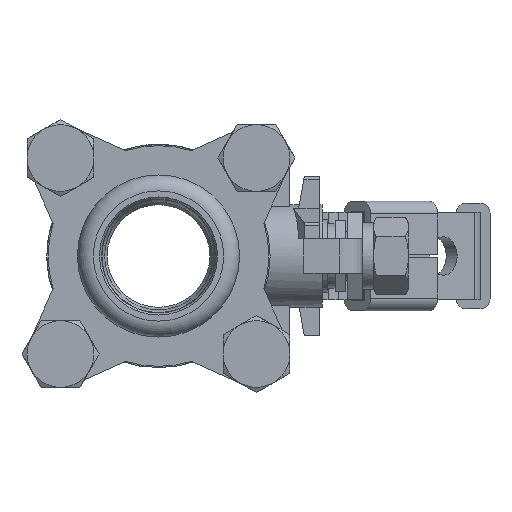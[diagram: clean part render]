
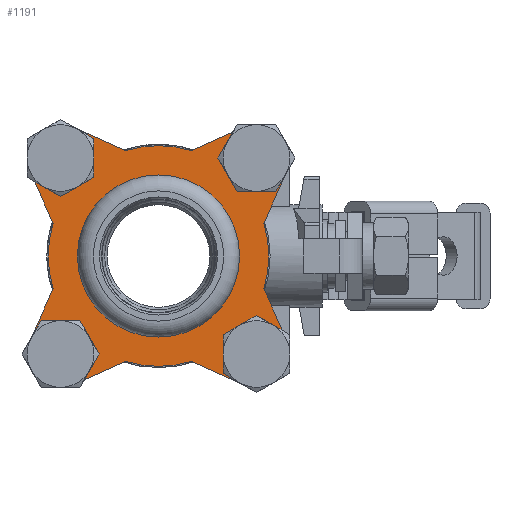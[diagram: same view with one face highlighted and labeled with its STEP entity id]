
A CAD part, front view. The second image highlights one B-rep face of the part: STEP entity #1191.
In plain terms, the highlighted planar face has unit normal (0, -1, 0).
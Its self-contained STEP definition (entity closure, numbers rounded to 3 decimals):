
#1191=ADVANCED_FACE('',(#2324,#2325,#2326,#2327,#2328,#2329),#2330,.F.);
#2324=FACE_BOUND('',#3670,.T.);
#2325=FACE_BOUND('',#3671,.T.);
#2326=FACE_BOUND('',#3672,.T.);
#2327=FACE_BOUND('',#3673,.T.);
#2328=FACE_OUTER_BOUND('',#3674,.T.);
#2329=FACE_BOUND('',#3675,.T.);
#2330=PLANE('',#3676);
#3670=EDGE_LOOP('',(#5640));
#3671=EDGE_LOOP('',(#5641));
#3672=EDGE_LOOP('',(#5642));
#3673=EDGE_LOOP('',(#5643));
#3674=EDGE_LOOP('',(#5644,#5645,#5646,#5647,#5648,#5649,#5650,#5651,#5652,#5653,#5654,#5655,#5656,#5657,#5658,#5659));
#3675=EDGE_LOOP('',(#5660));
#3676=AXIS2_PLACEMENT_3D('',#5661,#5662,#5663);
#5640=ORIENTED_EDGE('',*,*,#8114,.F.);
#5641=ORIENTED_EDGE('',*,*,#8115,.F.);
#5642=ORIENTED_EDGE('',*,*,#8116,.F.);
#5643=ORIENTED_EDGE('',*,*,#8117,.F.);
#5644=ORIENTED_EDGE('',*,*,#8118,.F.);
#5645=ORIENTED_EDGE('',*,*,#8119,.F.);
#5646=ORIENTED_EDGE('',*,*,#8120,.F.);
#5647=ORIENTED_EDGE('',*,*,#8121,.F.);
#5648=ORIENTED_EDGE('',*,*,#8122,.F.);
#5649=ORIENTED_EDGE('',*,*,#8123,.F.);
#5650=ORIENTED_EDGE('',*,*,#8124,.F.);
#5651=ORIENTED_EDGE('',*,*,#8125,.F.);
#5652=ORIENTED_EDGE('',*,*,#8126,.F.);
#5653=ORIENTED_EDGE('',*,*,#8127,.F.);
#5654=ORIENTED_EDGE('',*,*,#8128,.F.);
#5655=ORIENTED_EDGE('',*,*,#8129,.F.);
#5656=ORIENTED_EDGE('',*,*,#8130,.F.);
#5657=ORIENTED_EDGE('',*,*,#8131,.F.);
#5658=ORIENTED_EDGE('',*,*,#8132,.F.);
#5659=ORIENTED_EDGE('',*,*,#8133,.F.);
#5660=ORIENTED_EDGE('',*,*,#8112,.F.);
#5661=CARTESIAN_POINT('',(-12.5,-24.1,0.));
#5662=DIRECTION('',(0.,1.0,0.0));
#5663=DIRECTION('',(0.0,0.0,-1.0));
#8112=EDGE_CURVE('',#9412,#9412,#9413,.T.);
#8114=EDGE_CURVE('',#9415,#9415,#9416,.T.);
#8115=EDGE_CURVE('',#9417,#9417,#9418,.T.);
#8116=EDGE_CURVE('',#9419,#9419,#9420,.T.);
#8117=EDGE_CURVE('',#9421,#9421,#9422,.T.);
#8118=EDGE_CURVE('',#9423,#9424,#9425,.T.);
#8119=EDGE_CURVE('',#9426,#9423,#9427,.T.);
#8120=EDGE_CURVE('',#9428,#9426,#9429,.T.);
#8121=EDGE_CURVE('',#9430,#9428,#9431,.T.);
#8122=EDGE_CURVE('',#9432,#9430,#9433,.T.);
#8123=EDGE_CURVE('',#9434,#9432,#9435,.T.);
#8124=EDGE_CURVE('',#9436,#9434,#9437,.T.);
#8125=EDGE_CURVE('',#9438,#9436,#9439,.T.);
#8126=EDGE_CURVE('',#9440,#9438,#9441,.T.);
#8127=EDGE_CURVE('',#9442,#9440,#9443,.T.);
#8128=EDGE_CURVE('',#9444,#9442,#9445,.T.);
#8129=EDGE_CURVE('',#9446,#9444,#9447,.T.);
#8130=EDGE_CURVE('',#9448,#9446,#9449,.T.);
#8131=EDGE_CURVE('',#9450,#9448,#9451,.T.);
#8132=EDGE_CURVE('',#9452,#9450,#9453,.T.);
#8133=EDGE_CURVE('',#9424,#9452,#9454,.T.);
#9412=VERTEX_POINT('',#11414);
#9413=CIRCLE('',#11415,12.5);
#9415=VERTEX_POINT('',#11417);
#9416=CIRCLE('',#11418,4.15);
#9417=VERTEX_POINT('',#11419);
#9418=CIRCLE('',#11420,4.15);
#9419=VERTEX_POINT('',#11421);
#9420=CIRCLE('',#11422,4.15);
#9421=VERTEX_POINT('',#11423);
#9422=CIRCLE('',#11424,4.15);
#9423=VERTEX_POINT('',#11425);
#9424=VERTEX_POINT('',#11426);
#9425=LINE('',#11427,#11428);
#9426=VERTEX_POINT('',#11429);
#9427=CIRCLE('',#11430,21.5);
#9428=VERTEX_POINT('',#11431);
#9429=LINE('',#11432,#11433);
#9430=VERTEX_POINT('',#11434);
#9431=CIRCLE('',#11435,6.5);
#9432=VERTEX_POINT('',#11436);
#9433=LINE('',#11437,#11438);
#9434=VERTEX_POINT('',#11439);
#9435=CIRCLE('',#11440,21.5);
#9436=VERTEX_POINT('',#11441);
#9437=LINE('',#11442,#11443);
#9438=VERTEX_POINT('',#11444);
#9439=CIRCLE('',#11445,6.5);
#9440=VERTEX_POINT('',#11446);
#9441=LINE('',#11447,#11448);
#9442=VERTEX_POINT('',#11449);
#9443=CIRCLE('',#11450,21.5);
#9444=VERTEX_POINT('',#11451);
#9445=LINE('',#11452,#11453);
#9446=VERTEX_POINT('',#11454);
#9447=CIRCLE('',#11455,6.5);
#9448=VERTEX_POINT('',#11456);
#9449=LINE('',#11457,#11458);
#9450=VERTEX_POINT('',#11459);
#9451=CIRCLE('',#11460,21.5);
#9452=VERTEX_POINT('',#11461);
#9453=LINE('',#11462,#11463);
#9454=CIRCLE('',#11464,6.5);
#11414=CARTESIAN_POINT('',(0.,-24.1,-12.5));
#11415=AXIS2_PLACEMENT_3D('',#13891,#13892,#13893);
#11417=CARTESIAN_POINT('',(19.092,-24.1,14.942));
#11418=AXIS2_PLACEMENT_3D('',#13894,#13895,#13896);
#11419=CARTESIAN_POINT('',(-19.092,-24.1,14.942));
#11420=AXIS2_PLACEMENT_3D('',#13897,#13898,#13899);
#11421=CARTESIAN_POINT('',(19.092,-24.1,-23.242));
#11422=AXIS2_PLACEMENT_3D('',#13900,#13901,#13902);
#11423=CARTESIAN_POINT('',(-19.092,-24.1,-23.242));
#11424=AXIS2_PLACEMENT_3D('',#13903,#13904,#13905);
#11425=CARTESIAN_POINT('',(-6.387,-24.1,-20.529));
#11426=CARTESIAN_POINT('',(-16.438,-24.1,-25.025));
#11427=CARTESIAN_POINT('',(-6.387,-24.1,-20.529));
#11428=VECTOR('',#13906,1.0);
#11429=CARTESIAN_POINT('',(6.387,-24.1,-20.529));
#11430=AXIS2_PLACEMENT_3D('',#13907,#13908,#13909);
#11431=CARTESIAN_POINT('',(16.438,-24.1,-25.025));
#11432=CARTESIAN_POINT('',(16.438,-24.1,-25.025));
#11433=VECTOR('',#13910,1.0);
#11434=CARTESIAN_POINT('',(25.025,-24.1,-16.438));
#11435=AXIS2_PLACEMENT_3D('',#13911,#13912,#13913);
#11436=CARTESIAN_POINT('',(20.529,-24.1,-6.387));
#11437=CARTESIAN_POINT('',(20.529,-24.1,-6.387));
#11438=VECTOR('',#13914,1.0);
#11439=CARTESIAN_POINT('',(20.529,-24.1,6.387));
#11440=AXIS2_PLACEMENT_3D('',#13915,#13916,#13917);
#11441=CARTESIAN_POINT('',(25.025,-24.1,16.438));
#11442=CARTESIAN_POINT('',(25.025,-24.1,16.438));
#11443=VECTOR('',#13918,1.0);
#11444=CARTESIAN_POINT('',(16.438,-24.1,25.025));
#11445=AXIS2_PLACEMENT_3D('',#13919,#13920,#13921);
#11446=CARTESIAN_POINT('',(6.387,-24.1,20.529));
#11447=CARTESIAN_POINT('',(6.387,-24.1,20.529));
#11448=VECTOR('',#13922,1.0);
#11449=CARTESIAN_POINT('',(-6.387,-24.1,20.529));
#11450=AXIS2_PLACEMENT_3D('',#13923,#13924,#13925);
#11451=CARTESIAN_POINT('',(-16.438,-24.1,25.025));
#11452=CARTESIAN_POINT('',(-16.438,-24.1,25.025));
#11453=VECTOR('',#13926,1.0);
#11454=CARTESIAN_POINT('',(-25.025,-24.1,16.438));
#11455=AXIS2_PLACEMENT_3D('',#13927,#13928,#13929);
#11456=CARTESIAN_POINT('',(-20.529,-24.1,6.387));
#11457=CARTESIAN_POINT('',(-20.529,-24.1,6.387));
#11458=VECTOR('',#13930,1.0);
#11459=CARTESIAN_POINT('',(-20.529,-24.1,-6.387));
#11460=AXIS2_PLACEMENT_3D('',#13931,#13932,#13933);
#11461=CARTESIAN_POINT('',(-25.025,-24.1,-16.438));
#11462=CARTESIAN_POINT('',(-25.025,-24.1,-16.438));
#11463=VECTOR('',#13934,1.0);
#11464=AXIS2_PLACEMENT_3D('',#13935,#13936,#13937);
#13891=CARTESIAN_POINT('',(0.,-24.1,0.));
#13892=DIRECTION('',(0.,-1.0,-0.0));
#13893=DIRECTION('',(0.0,0.0,-1.0));
#13894=CARTESIAN_POINT('',(19.092,-24.1,19.092));
#13895=DIRECTION('',(0.,-1.0,0.));
#13896=DIRECTION('',(0.,0.,-1.0));
#13897=CARTESIAN_POINT('',(-19.092,-24.1,19.092));
#13898=DIRECTION('',(0.,-1.0,0.));
#13899=DIRECTION('',(0.,0.,-1.0));
#13900=CARTESIAN_POINT('',(19.092,-24.1,-19.092));
#13901=DIRECTION('',(0.,-1.0,0.));
#13902=DIRECTION('',(0.,0.,-1.0));
#13903=CARTESIAN_POINT('',(-19.092,-24.1,-19.092));
#13904=DIRECTION('',(0.,-1.0,0.));
#13905=DIRECTION('',(0.,0.,-1.0));
#13906=DIRECTION('',(-0.913,0.,-0.408));
#13907=CARTESIAN_POINT('',(0.,-24.1,0.));
#13908=DIRECTION('',(0.,1.0,0.));
#13909=DIRECTION('',(0.,0.,1.0));
#13910=DIRECTION('',(-0.913,0.,0.408));
#13911=CARTESIAN_POINT('',(19.092,-24.1,-19.092));
#13912=DIRECTION('',(0.,1.0,0.));
#13913=DIRECTION('',(0.,0.,1.0));
#13914=DIRECTION('',(0.408,0.,-0.913));
#13915=CARTESIAN_POINT('',(0.,-24.1,0.));
#13916=DIRECTION('',(0.,1.0,0.));
#13917=DIRECTION('',(0.,0.,1.0));
#13918=DIRECTION('',(-0.408,0.,-0.913));
#13919=CARTESIAN_POINT('',(19.092,-24.1,19.092));
#13920=DIRECTION('',(0.,1.0,0.));
#13921=DIRECTION('',(0.,0.,1.0));
#13922=DIRECTION('',(0.913,0.,0.408));
#13923=CARTESIAN_POINT('',(0.,-24.1,0.));
#13924=DIRECTION('',(0.,1.0,0.));
#13925=DIRECTION('',(0.,0.,1.0));
#13926=DIRECTION('',(0.913,0.,-0.408));
#13927=CARTESIAN_POINT('',(-19.092,-24.1,19.092));
#13928=DIRECTION('',(0.,1.0,0.));
#13929=DIRECTION('',(0.,0.,1.0));
#13930=DIRECTION('',(-0.408,0.,0.913));
#13931=CARTESIAN_POINT('',(0.,-24.1,0.));
#13932=DIRECTION('',(0.,1.0,0.));
#13933=DIRECTION('',(0.,0.,1.0));
#13934=DIRECTION('',(0.408,0.,0.913));
#13935=CARTESIAN_POINT('',(-19.092,-24.1,-19.092));
#13936=DIRECTION('',(0.,1.0,0.));
#13937=DIRECTION('',(0.,0.,1.0));
